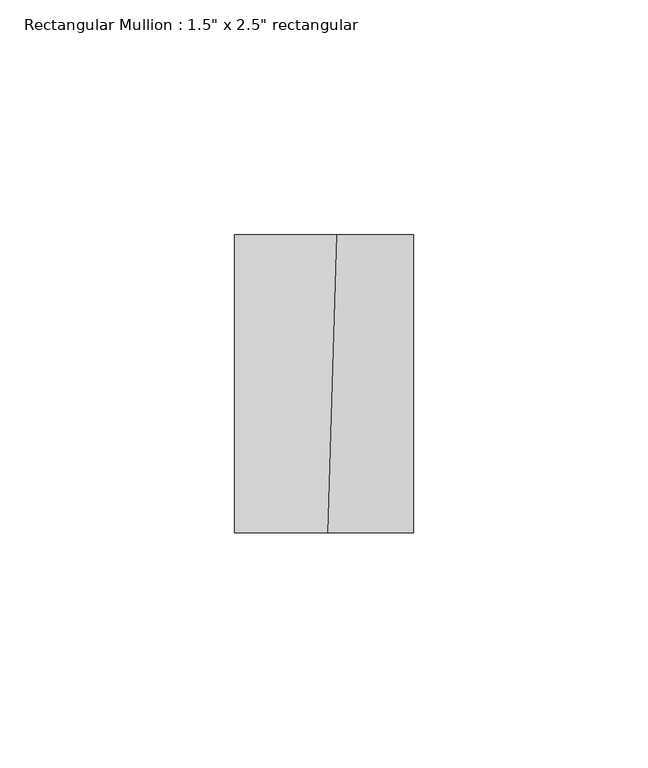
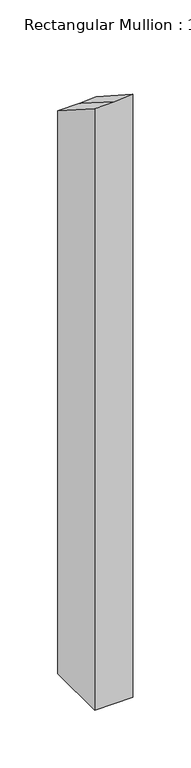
"""IFC4 building model written with IfcOpenShell, lengths in millimetres: member geometry."""

from ifc_helpers import new_model, si_unit, origin, place, context, project, spatial, faceted_brep, source, transform, mapped, element, save


def member_9a31911a(model_context):
    return source(origin(), model_context, "Body", "Brep", [
        faceted_brep([(19.05, 31.75, -651.7204634), (19.05, -31.75, -651.7204634), (-19.05, -31.75, -651.7204634), (-19.05, 31.75, -651.7204634), (-19.05, 31.75, -58.3565201), (2.8122552, 31.75, -58.0878093), (19.05, 31.75, -56.7130709), (-19.05, -31.75, -17.5805593), (19.05, -31.75, -15.7943239), (0.8393075, -31.75, -17.3360982)], [[[0, 1, 2, 3]], [[4, 5, 6, 0, 3]], [[7, 4, 3, 2]], [[8, 9, 7, 2, 1]], [[6, 8, 1, 0]], [[6, 5, 9, 8]], [[5, 4, 7, 9]]]),
    ])


if __name__ == "__main__":
    model = new_model("IFC4")
    model_context = context("Model", 3, world=origin())
    ifc_project = project(units=[si_unit("LENGTHUNIT", "METRE", prefix="MILLI")], contexts=[model_context])
    site = spatial("IfcSite", under=ifc_project)
    building = spatial("IfcBuilding", under=site)
    placement = place(None, origin())
    member_shape = member_9a31911a(model_context)
    element("IfcMember", 1, ObjectType="Rectangular Mullion : 1.5\" x 2.5\" rectangular", at=placement, inside=building, context=model_context, shape_type="MappedRepresentation", body=[
        mapped(member_shape, transform((0.0, 0.0, 0.0), x_axis=(1.0, 0.0, 0.0), y_axis=(0.0, 1.0, 0.0), z_axis=(0.0, 0.0, 1.0))),
    ])
    save(model, "model.ifc")
